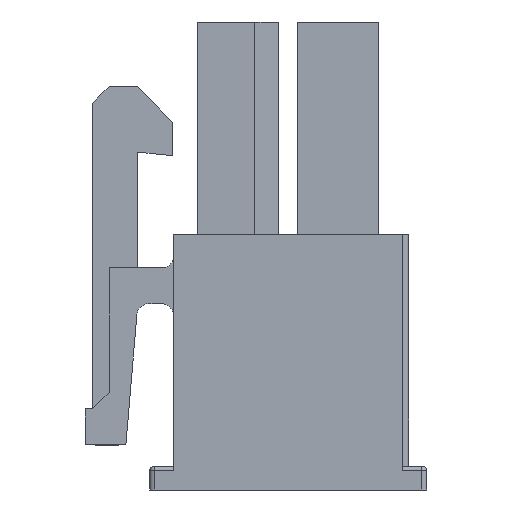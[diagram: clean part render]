
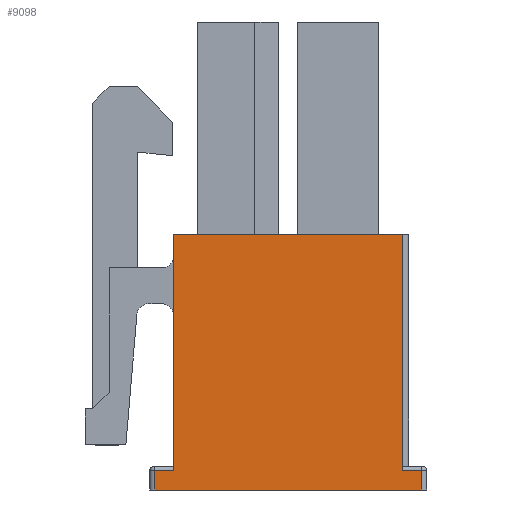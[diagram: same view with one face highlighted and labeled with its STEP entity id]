
A CAD part, left-side view. The second image highlights one B-rep face of the part: STEP entity #9098.
In plain terms, the highlighted planar face has unit normal (-1, 0, 0).
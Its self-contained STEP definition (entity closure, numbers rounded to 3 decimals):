
#1=DIRECTION('',(0.,0.,1.));
#2=VECTOR('',#1,9.9);
#3=CARTESIAN_POINT('',(-13.2,4.8,-9.9));
#4=LINE('',#3,#2);
#5=DIRECTION('',(0.,-1.,0.));
#6=VECTOR('',#5,9.6);
#7=CARTESIAN_POINT('',(-13.2,4.8,0.));
#8=LINE('',#7,#6);
#9=DIRECTION('',(0.,0.,-1.));
#10=VECTOR('',#9,9.9);
#11=CARTESIAN_POINT('',(-13.2,-4.8,0.));
#12=LINE('',#11,#10);
#13=DIRECTION('',(0.,1.,0.));
#14=VECTOR('',#13,11.2);
#15=CARTESIAN_POINT('',(-13.2,-5.6,-10.7));
#16=LINE('',#15,#14);
#17=DIRECTION('',(0.,1.,0.));
#18=VECTOR('',#17,0.8);
#19=CARTESIAN_POINT('',(-13.2,4.8,-9.9));
#20=LINE('',#19,#18);
#831=DIRECTION('',(0.,1.,0.));
#832=VECTOR('',#831,0.8);
#833=CARTESIAN_POINT('',(-13.2,-5.6,-9.9));
#834=LINE('',#833,#832);
#889=DIRECTION('',(0.,0.,1.));
#890=VECTOR('',#889,0.8);
#891=CARTESIAN_POINT('',(-13.2,-5.6,-10.7));
#892=LINE('',#891,#890);
#6443=DIRECTION('',(0.,0.,-1.));
#6444=VECTOR('',#6443,0.8);
#6445=CARTESIAN_POINT('',(-13.2,5.6,-9.9));
#6446=LINE('',#6445,#6444);
#6831=CARTESIAN_POINT('',(-13.2,4.8,-9.9));
#6832=CARTESIAN_POINT('',(-13.2,5.6,-9.9));
#6833=VERTEX_POINT('',#6831);
#6834=VERTEX_POINT('',#6832);
#6835=CARTESIAN_POINT('',(-13.2,4.8,0.));
#6836=VERTEX_POINT('',#6835);
#6837=CARTESIAN_POINT('',(-13.2,-4.8,0.));
#6838=VERTEX_POINT('',#6837);
#6839=CARTESIAN_POINT('',(-13.2,-4.8,-9.9));
#6840=VERTEX_POINT('',#6839);
#6841=CARTESIAN_POINT('',(-13.2,-5.6,-9.9));
#6842=VERTEX_POINT('',#6841);
#6843=CARTESIAN_POINT('',(-13.2,-5.6,-10.7));
#6844=VERTEX_POINT('',#6843);
#6845=CARTESIAN_POINT('',(-13.2,5.6,-10.7));
#6846=VERTEX_POINT('',#6845);
#9075=CARTESIAN_POINT('',(-13.2,0.,-5.35));
#9076=DIRECTION('',(1.,0.,0.));
#9077=DIRECTION('',(0.,-1.,0.));
#9078=AXIS2_PLACEMENT_3D('',#9075,#9076,#9077);
#9079=PLANE('',#9078);
#9081=ORIENTED_EDGE('',*,*,#9080,.F.);
#9083=ORIENTED_EDGE('',*,*,#9082,.T.);
#9085=ORIENTED_EDGE('',*,*,#9084,.T.);
#9087=ORIENTED_EDGE('',*,*,#9086,.T.);
#9089=ORIENTED_EDGE('',*,*,#9088,.F.);
#9091=ORIENTED_EDGE('',*,*,#9090,.F.);
#9093=ORIENTED_EDGE('',*,*,#9092,.T.);
#9095=ORIENTED_EDGE('',*,*,#9094,.F.);
#9096=EDGE_LOOP('',(#9081,#9083,#9085,#9087,#9089,#9091,#9093,#9095));
#9097=FACE_OUTER_BOUND('',#9096,.F.);
#9098=ADVANCED_FACE('',(#9097),#9079,.F.);
#9080=EDGE_CURVE('',#6833,#6834,#20,.T.);
#9082=EDGE_CURVE('',#6833,#6836,#4,.T.);
#9084=EDGE_CURVE('',#6836,#6838,#8,.T.);
#9086=EDGE_CURVE('',#6838,#6840,#12,.T.);
#9088=EDGE_CURVE('',#6842,#6840,#834,.T.);
#9090=EDGE_CURVE('',#6844,#6842,#892,.T.);
#9092=EDGE_CURVE('',#6844,#6846,#16,.T.);
#9094=EDGE_CURVE('',#6834,#6846,#6446,.T.);
